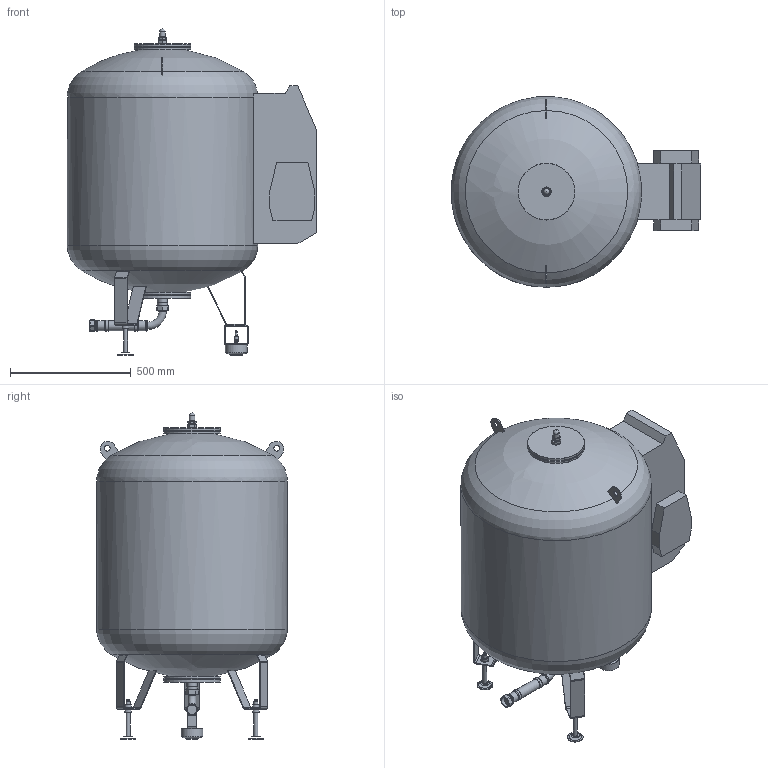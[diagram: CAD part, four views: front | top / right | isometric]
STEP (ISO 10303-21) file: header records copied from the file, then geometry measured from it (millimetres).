
FILE_DESCRIPTION(/* description */ (''),/* implementation_level */ '2;1');
FILE_NAME(/* name */ '\\DATASERVER\data\Flamco\3D-Modellen\Inventor\Flamcomat\2021_Flamcomat MK-U G4\flamcomat_mk-u_g4_400l.stp',/* time_stamp */ '2021-11-29T10:56:58+01:00',/* author */ ('kasius'),/* organization */ (''),/* preprocessor_version */ 'ST-DEVELOPER v17',/* originating_system */ 'Autodesk Inventor 2018',/* authorisation */ '');
FILE_SCHEMA (('AUTOMOTIVE_DESIGN { 1 0 10303 214 3 1 1 }'));
Length unit declared in the file: millimetre
Products named in the file (1): flamcomat_mk-u_g4_400l
Bounding box: 1031.9 x 787.8 x 1347.63 mm (x, y, z)
Volume: 468678215.5 mm3; surface area: 3831073.5 mm2
Topology: 5 solids, 5 shells, 335 faces, 911 edges, 631 vertices
Faces by surface type: plane 160, cylinder 103, cone 64, torus 5, sphere 3
Full cylindrical faces by diameter (mm): 4.6 x1, 9 x1, 10 x2, 12 x1, 12.997 x2, 13 x1, 14 x1, 14.5 x1, 15 x1, 15.997 x4, 17.998 x1, 20 x2, 20.955 x1, 23.5 x2, 24 x1, 27.625 x4, 31 x1, 32.997 x2, 33.7 x1, 38.75 x1, 39 x1, 40.8 x2, 41.4 x1, 41.91 x1, 42 x1, 46 x2, 65 x2, 90 x1, 188 x2, 208.362 x2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
Entity records: 11096 total; most frequent: CARTESIAN_POINT 2015, DIRECTION 1975, ORIENTED_EDGE 1820, EDGE_CURVE 910, AXIS2_PLACEMENT_3D 795, VERTEX_POINT 631, CIRCLE 459, EDGE_LOOP 393
